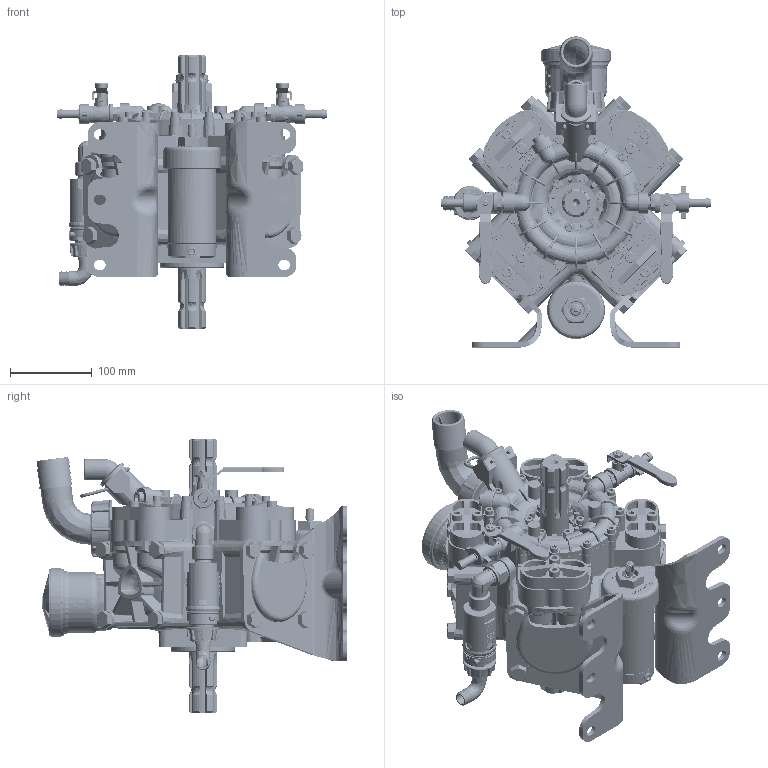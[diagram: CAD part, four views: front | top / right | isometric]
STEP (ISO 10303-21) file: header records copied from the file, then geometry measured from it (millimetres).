
FILE_DESCRIPTION (( 'STEP AP203' ), '1' );
FILE_NAME ('9910-D1064.step', '2013-09-18T21:58:59', ( '' ), ( '' ), 'SwSTEP 2.0', 'SolidWorks 2012', '' );
FILE_SCHEMA (( 'CONFIG_CONTROL_DESIGN' ));
Length unit declared in the file: millimetre
Products named in the file (1): 9910-D1064
Bounding box: 331.4 x 381.05 x 337 mm (x, y, z)
Surface area: 703706.5 mm2 (no closed solid volume)
Topology: 0 solids, 8 shells, 8692 faces, 23026 edges, 14701 vertices
Faces by surface type: plane 5096, bspline 2522, cylinder 1074
Entity records: 488105 total; most frequent: CARTESIAN_POINT 299872, ORIENTED_EDGE 45943, DIRECTION 29583, EDGE_CURVE 22985, VERTEX_POINT 14699, LINE 11171, VECTOR 11171, AXIS2_PLACEMENT_3D 9206
